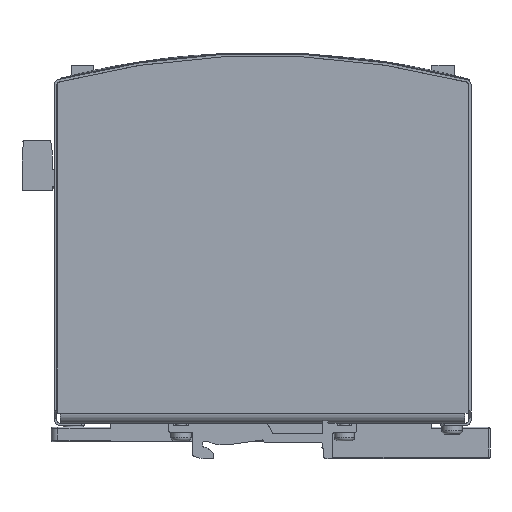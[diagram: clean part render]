
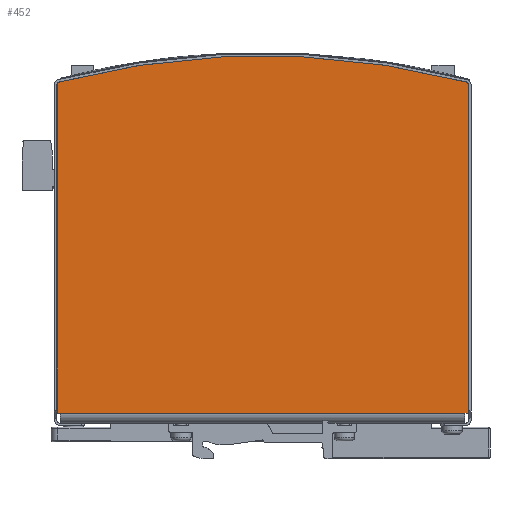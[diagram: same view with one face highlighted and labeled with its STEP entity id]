
A CAD part, front view. The second image highlights one B-rep face of the part: STEP entity #452.
In plain terms, the highlighted planar face has unit normal (0, -1, 0).
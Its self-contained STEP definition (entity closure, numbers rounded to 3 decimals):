
#352=CARTESIAN_POINT('',(61.15,-16.,100.557));
#353=VERTEX_POINT('',#352);
#362=CARTESIAN_POINT('',(61.15,-16.,3.));
#363=VERTEX_POINT('',#362);
#364=CARTESIAN_POINT('',(61.15,-16.,3.));
#365=DIRECTION('',(0.0,0.0,1.0));
#366=VECTOR('',#365,97.557);
#367=LINE('',#364,#366);
#368=EDGE_CURVE('',#363,#353,#367,.T.);
#387=CARTESIAN_POINT('',(61.15,-16.0,1.5));
#388=DIRECTION('',(0.0,1.0,0.0));
#389=DIRECTION('',(0.0,0.0,1.0));
#390=AXIS2_PLACEMENT_3D('',#387,#388,#389);
#391=PLANE('',#390);
#392=CARTESIAN_POINT('',(60.402,-16.,101.525));
#393=VERTEX_POINT('',#392);
#394=CARTESIAN_POINT('',(60.15,-16.,100.557));
#395=DIRECTION('',(0.0,1.0,0.0));
#396=DIRECTION('',(0.0,0.0,-1.0));
#397=AXIS2_PLACEMENT_3D('',#394,#395,#396);
#398=CIRCLE('',#397,1.);
#399=EDGE_CURVE('',#393,#353,#398,.T.);
#400=ORIENTED_EDGE('',*,*,#399,.F.);
#401=CARTESIAN_POINT('',(-60.402,-16.,101.525));
#402=VERTEX_POINT('',#401);
#403=CARTESIAN_POINT('',(0.,-16.,-130.75));
#404=DIRECTION('',(0.0,1.0,0.0));
#405=DIRECTION('',(0.0,0.0,-1.0));
#406=AXIS2_PLACEMENT_3D('',#403,#404,#405);
#407=CIRCLE('',#406,240.0);
#408=EDGE_CURVE('',#402,#393,#407,.T.);
#409=ORIENTED_EDGE('',*,*,#408,.F.);
#410=CARTESIAN_POINT('',(-61.15,-16.,100.557));
#411=VERTEX_POINT('',#410);
#412=CARTESIAN_POINT('',(-60.15,-16.,100.557));
#413=DIRECTION('',(0.0,1.0,0.0));
#414=DIRECTION('',(0.0,0.0,-1.0));
#415=AXIS2_PLACEMENT_3D('',#412,#413,#414);
#416=CIRCLE('',#415,1.);
#417=EDGE_CURVE('',#411,#402,#416,.T.);
#418=ORIENTED_EDGE('',*,*,#417,.F.);
#419=CARTESIAN_POINT('',(-61.15,-16.,3.));
#420=VERTEX_POINT('',#419);
#421=CARTESIAN_POINT('',(-61.15,-16.,100.557));
#422=DIRECTION('',(0.0,0.0,-1.0));
#423=VECTOR('',#422,97.557);
#424=LINE('',#421,#423);
#425=EDGE_CURVE('',#411,#420,#424,.T.);
#426=ORIENTED_EDGE('',*,*,#425,.T.);
#427=CARTESIAN_POINT('',(-60.15,-16.,3.));
#428=VERTEX_POINT('',#427);
#429=CARTESIAN_POINT('',(-60.15,-16.,3.));
#430=DIRECTION('',(-1.0,0.0,0.0));
#431=VECTOR('',#430,1.);
#432=LINE('',#429,#431);
#433=EDGE_CURVE('',#428,#420,#432,.T.);
#434=ORIENTED_EDGE('',*,*,#433,.F.);
#435=CARTESIAN_POINT('',(60.15,-16.,3.));
#436=VERTEX_POINT('',#435);
#437=CARTESIAN_POINT('',(60.15,-16.0,3.));
#438=DIRECTION('',(-1.0,0.0,0.0));
#439=VECTOR('',#438,120.3);
#440=LINE('',#437,#439);
#441=EDGE_CURVE('',#436,#428,#440,.T.);
#442=ORIENTED_EDGE('',*,*,#441,.F.);
#443=CARTESIAN_POINT('',(61.15,-16.,3.));
#444=DIRECTION('',(-1.0,0.0,0.0));
#445=VECTOR('',#444,1.0);
#446=LINE('',#443,#445);
#447=EDGE_CURVE('',#363,#436,#446,.T.);
#448=ORIENTED_EDGE('',*,*,#447,.F.);
#449=ORIENTED_EDGE('',*,*,#368,.T.);
#450=EDGE_LOOP('',(#400,#409,#418,#426,#434,#442,#448,#449));
#451=FACE_OUTER_BOUND('',#450,.T.);
#452=ADVANCED_FACE('',(#451),#391,.F.);
